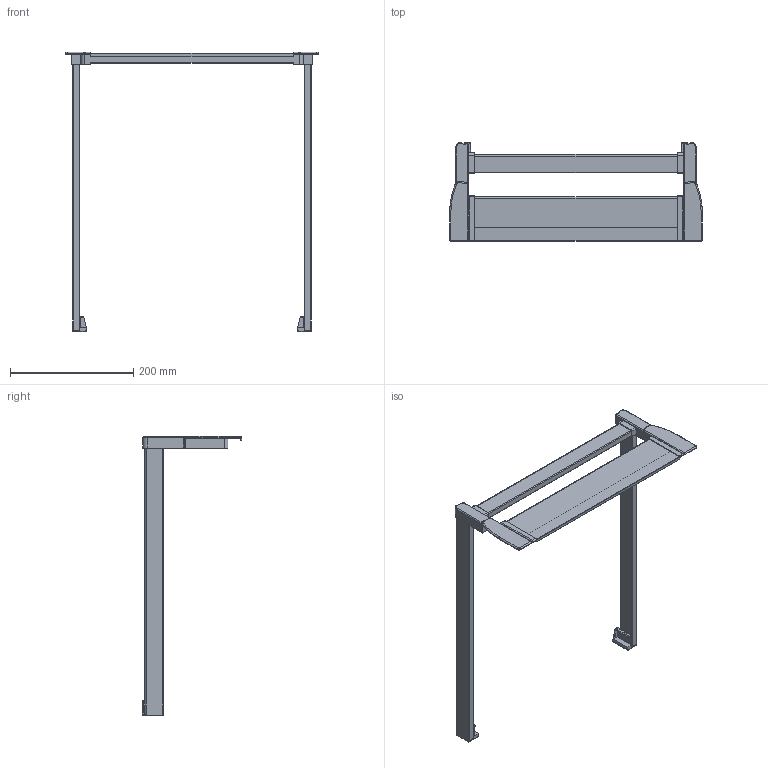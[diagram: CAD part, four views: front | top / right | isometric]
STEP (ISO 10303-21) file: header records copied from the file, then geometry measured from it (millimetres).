
FILE_DESCRIPTION (( 'STEP AP214' ), '1' );
FILE_NAME ('1_P620_NL 450_KAB 450_16er KS_.step', '2009-09-16T06:29:43', ( 'Waldinger Reinhard' ), ( 'Grass GmbH' ), 'SwSTEP 2.0', 'SolidWorks 2009', '' );
FILE_SCHEMA (( 'AUTOMOTIVE_DESIGN' ));
Length unit declared in the file: millimetre
Products named in the file (1): 1_P620_NL 450_KAB 450_16er KS_
Bounding box: 409.6 x 160.5 x 452.8 mm (x, y, z)
Volume: 781434.5 mm3; surface area: 188041.2 mm2
Topology: 1 solids, 1 shells, 220 faces, 578 edges, 364 vertices
Faces by surface type: plane 97, cylinder 91, torus 28, bspline 2, sphere 2
Entity records: 7004 total; most frequent: CARTESIAN_POINT 1345, DIRECTION 1198, ORIENTED_EDGE 1152, EDGE_CURVE 576, AXIS2_PLACEMENT_3D 433, VERTEX_POINT 364, VECTOR 332, LINE 332
